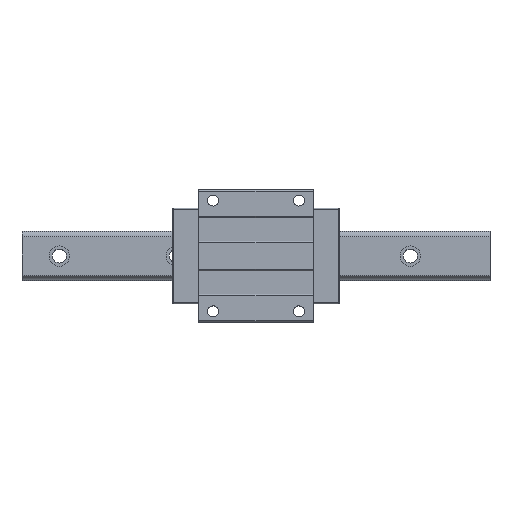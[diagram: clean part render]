
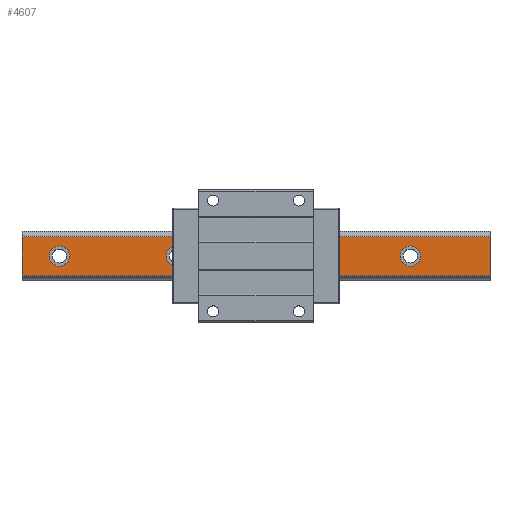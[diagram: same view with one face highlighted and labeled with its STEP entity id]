
A CAD part, top view. The second image highlights one B-rep face of the part: STEP entity #4607.
In plain terms, the highlighted planar face has unit normal (0, 0, 1).
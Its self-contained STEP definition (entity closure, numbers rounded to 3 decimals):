
#26 = DIRECTION ( 'NONE',  ( 0., 0., 1. ) ) ;
#266 = EDGE_CURVE ( 'NONE', #2355, #5575, #4671, .T. ) ;
#291 = FACE_OUTER_BOUND ( 'NONE', #2536, .T. ) ;
#419 = CARTESIAN_POINT ( 'NONE',  ( -300., -24.864, 53. ) ) ;
#435 = ORIENTED_EDGE ( 'NONE', *, *, #1725, .F. ) ;
#590 = AXIS2_PLACEMENT_3D ( 'NONE', #6496, #4229, #2672 ) ;
#621 = CARTESIAN_POINT ( 'NONE',  ( -89., 0., 53. ) ) ;
#723 = DIRECTION ( 'NONE',  ( 0., 0., 1. ) ) ;
#761 = DIRECTION ( 'NONE',  ( 1., 0., 0. ) ) ;
#830 = CIRCLE ( 'NONE', #1073, 13. ) ;
#864 = ORIENTED_EDGE ( 'NONE', *, *, #3569, .F. ) ;
#886 = VERTEX_POINT ( 'NONE', #621 ) ;
#913 = EDGE_CURVE ( 'NONE', #4090, #2282, #4895, .T. ) ;
#983 = DIRECTION ( 'NONE',  ( 0., 0., 1. ) ) ;
#1020 = DIRECTION ( 'NONE',  ( 0., -1., 0. ) ) ;
#1026 = FACE_BOUND ( 'NONE', #3298, .T. ) ;
#1040 = ORIENTED_EDGE ( 'NONE', *, *, #5577, .T. ) ;
#1068 = CARTESIAN_POINT ( 'NONE',  ( -239., 0., 53. ) ) ;
#1073 = AXIS2_PLACEMENT_3D ( 'NONE', #6785, #6675, #3337 ) ;
#1192 = VERTEX_POINT ( 'NONE', #2781 ) ;
#1292 = CARTESIAN_POINT ( 'NONE',  ( -300., 24.864, 53. ) ) ;
#1338 = CARTESIAN_POINT ( 'NONE',  ( 198., 0., 53. ) ) ;
#1398 = ORIENTED_EDGE ( 'NONE', *, *, #3674, .F. ) ;
#1531 = VECTOR ( 'NONE', #1020, 1000. ) ;
#1623 = EDGE_LOOP ( 'NONE', ( #864, #5368 ) ) ;
#1725 = EDGE_CURVE ( 'NONE', #4589, #2355, #6590, .T. ) ;
#1858 = DIRECTION ( 'NONE',  ( -1., 0., 0. ) ) ;
#1891 = CARTESIAN_POINT ( 'NONE',  ( 211., 0., 53. ) ) ;
#2075 = CARTESIAN_POINT ( 'NONE',  ( 300., 24.864, 53. ) ) ;
#2178 = AXIS2_PLACEMENT_3D ( 'NONE', #4611, #6388, #761 ) ;
#2282 = VERTEX_POINT ( 'NONE', #4616 ) ;
#2355 = VERTEX_POINT ( 'NONE', #6789 ) ;
#2396 = EDGE_LOOP ( 'NONE', ( #4952, #6270 ) ) ;
#2502 = VERTEX_POINT ( 'NONE', #1292 ) ;
#2525 = VERTEX_POINT ( 'NONE', #6828 ) ;
#2536 = EDGE_LOOP ( 'NONE', ( #1040, #5590, #435, #5081 ) ) ;
#2568 = AXIS2_PLACEMENT_3D ( 'NONE', #1338, #4686, #3564 ) ;
#2602 = AXIS2_PLACEMENT_3D ( 'NONE', #5788, #723, #2968 ) ;
#2672 = DIRECTION ( 'NONE',  ( 1., 0., 0. ) ) ;
#2724 = CIRCLE ( 'NONE', #2602, 13. ) ;
#2750 = DIRECTION ( 'NONE',  ( 1., 0., 0. ) ) ;
#2781 = CARTESIAN_POINT ( 'NONE',  ( -265., 0., 53. ) ) ;
#2796 = CARTESIAN_POINT ( 'NONE',  ( -252., 0., 53. ) ) ;
#2968 = DIRECTION ( 'NONE',  ( 1., 0., 0. ) ) ;
#2994 = VECTOR ( 'NONE', #1858, 1000. ) ;
#3235 = FACE_BOUND ( 'NONE', #7166, .T. ) ;
#3274 = PLANE ( 'NONE',  #4457 ) ;
#3298 = EDGE_LOOP ( 'NONE', ( #5898, #3512 ) ) ;
#3337 = DIRECTION ( 'NONE',  ( 1., 0., 0. ) ) ;
#3342 = FACE_BOUND ( 'NONE', #2396, .T. ) ;
#3344 = EDGE_CURVE ( 'NONE', #3537, #886, #7299, .T. ) ;
#3512 = ORIENTED_EDGE ( 'NONE', *, *, #5775, .F. ) ;
#3537 = VERTEX_POINT ( 'NONE', #4506 ) ;
#3540 = DIRECTION ( 'NONE',  ( 0., 0., 1. ) ) ;
#3564 = DIRECTION ( 'NONE',  ( 1., 0., 0. ) ) ;
#3569 = EDGE_CURVE ( 'NONE', #4647, #1192, #5061, .T. ) ;
#3574 = CARTESIAN_POINT ( 'NONE',  ( -102., 0., 53. ) ) ;
#3652 = DIRECTION ( 'NONE',  ( 0., 0., -1. ) ) ;
#3674 = EDGE_CURVE ( 'NONE', #2282, #4090, #6112, .T. ) ;
#3712 = LINE ( 'NONE', #5457, #1531 ) ;
#3823 = CARTESIAN_POINT ( 'NONE',  ( 300., -24.864, 53. ) ) ;
#4090 = VERTEX_POINT ( 'NONE', #1891 ) ;
#4229 = DIRECTION ( 'NONE',  ( 0., 0., 1. ) ) ;
#4327 = DIRECTION ( 'NONE',  ( -1., 0., 0. ) ) ;
#4457 = AXIS2_PLACEMENT_3D ( 'NONE', #3823, #3652, #5017 ) ;
#4506 = CARTESIAN_POINT ( 'NONE',  ( -115., 0., 53. ) ) ;
#4508 = CIRCLE ( 'NONE', #6282, 13. ) ;
#4589 = VERTEX_POINT ( 'NONE', #4977 ) ;
#4607 = ADVANCED_FACE ( 'NONE', ( #3235, #1026, #3342, #5060, #291 ), #3274, .F. ) ;
#4611 = CARTESIAN_POINT ( 'NONE',  ( 198., 0., 53. ) ) ;
#4616 = CARTESIAN_POINT ( 'NONE',  ( 185., 0., 53. ) ) ;
#4647 = VERTEX_POINT ( 'NONE', #1068 ) ;
#4671 = LINE ( 'NONE', #6923, #2994 ) ;
#4686 = DIRECTION ( 'NONE',  ( 0., 0., 1. ) ) ;
#4823 = CARTESIAN_POINT ( 'NONE',  ( 300., -24.864, 53. ) ) ;
#4895 = CIRCLE ( 'NONE', #2178, 13. ) ;
#4906 = VECTOR ( 'NONE', #7072, 1000. ) ;
#4952 = ORIENTED_EDGE ( 'NONE', *, *, #7208, .F. ) ;
#4965 = ORIENTED_EDGE ( 'NONE', *, *, #913, .F. ) ;
#4977 = CARTESIAN_POINT ( 'NONE',  ( 300., 24.864, 53. ) ) ;
#4985 = CARTESIAN_POINT ( 'NONE',  ( 61., 0., 53. ) ) ;
#5017 = DIRECTION ( 'NONE',  ( 0., -1., 0. ) ) ;
#5060 = FACE_BOUND ( 'NONE', #1623, .T. ) ;
#5061 = CIRCLE ( 'NONE', #7169, 13. ) ;
#5081 = ORIENTED_EDGE ( 'NONE', *, *, #6958, .T. ) ;
#5278 = VERTEX_POINT ( 'NONE', #4985 ) ;
#5368 = ORIENTED_EDGE ( 'NONE', *, *, #6788, .F. ) ;
#5405 = AXIS2_PLACEMENT_3D ( 'NONE', #3574, #3540, #5805 ) ;
#5457 = CARTESIAN_POINT ( 'NONE',  ( -300., -24.864, 53. ) ) ;
#5575 = VERTEX_POINT ( 'NONE', #419 ) ;
#5577 = EDGE_CURVE ( 'NONE', #2502, #5575, #3712, .T. ) ;
#5589 = EDGE_CURVE ( 'NONE', #5278, #2525, #6378, .T. ) ;
#5590 = ORIENTED_EDGE ( 'NONE', *, *, #266, .F. ) ;
#5775 = EDGE_CURVE ( 'NONE', #2525, #5278, #830, .T. ) ;
#5788 = CARTESIAN_POINT ( 'NONE',  ( -252., 0., 53. ) ) ;
#5805 = DIRECTION ( 'NONE',  ( 1., 0., 0. ) ) ;
#5898 = ORIENTED_EDGE ( 'NONE', *, *, #5589, .F. ) ;
#6048 = CARTESIAN_POINT ( 'NONE',  ( -102., 0., 53. ) ) ;
#6112 = CIRCLE ( 'NONE', #2568, 13. ) ;
#6270 = ORIENTED_EDGE ( 'NONE', *, *, #3344, .F. ) ;
#6277 = DIRECTION ( 'NONE',  ( 1., 0., 0. ) ) ;
#6282 = AXIS2_PLACEMENT_3D ( 'NONE', #6048, #983, #2750 ) ;
#6378 = CIRCLE ( 'NONE', #590, 13. ) ;
#6388 = DIRECTION ( 'NONE',  ( 0., 0., 1. ) ) ;
#6496 = CARTESIAN_POINT ( 'NONE',  ( 48., 0., 53. ) ) ;
#6590 = LINE ( 'NONE', #4823, #4906 ) ;
#6675 = DIRECTION ( 'NONE',  ( 0., 0., 1. ) ) ;
#6785 = CARTESIAN_POINT ( 'NONE',  ( 48., 0., 53. ) ) ;
#6788 = EDGE_CURVE ( 'NONE', #1192, #4647, #2724, .T. ) ;
#6789 = CARTESIAN_POINT ( 'NONE',  ( 300., -24.864, 53. ) ) ;
#6828 = CARTESIAN_POINT ( 'NONE',  ( 35., 0., 53. ) ) ;
#6923 = CARTESIAN_POINT ( 'NONE',  ( 300., -24.864, 53. ) ) ;
#6958 = EDGE_CURVE ( 'NONE', #4589, #2502, #7221, .T. ) ;
#7072 = DIRECTION ( 'NONE',  ( 0., -1., 0. ) ) ;
#7097 = VECTOR ( 'NONE', #4327, 1000. ) ;
#7166 = EDGE_LOOP ( 'NONE', ( #4965, #1398 ) ) ;
#7169 = AXIS2_PLACEMENT_3D ( 'NONE', #2796, #26, #6277 ) ;
#7208 = EDGE_CURVE ( 'NONE', #886, #3537, #4508, .T. ) ;
#7221 = LINE ( 'NONE', #2075, #7097 ) ;
#7299 = CIRCLE ( 'NONE', #5405, 13. ) ;
